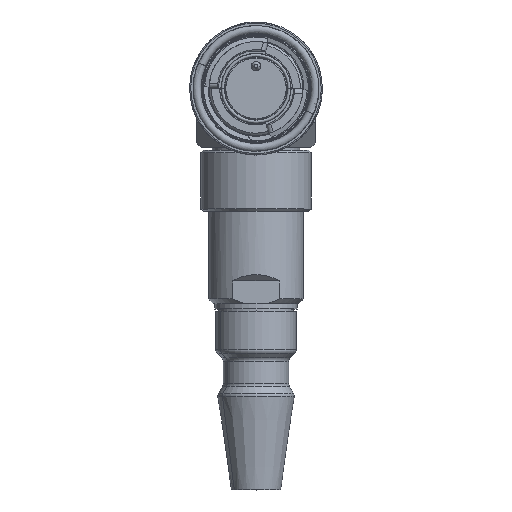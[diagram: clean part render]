
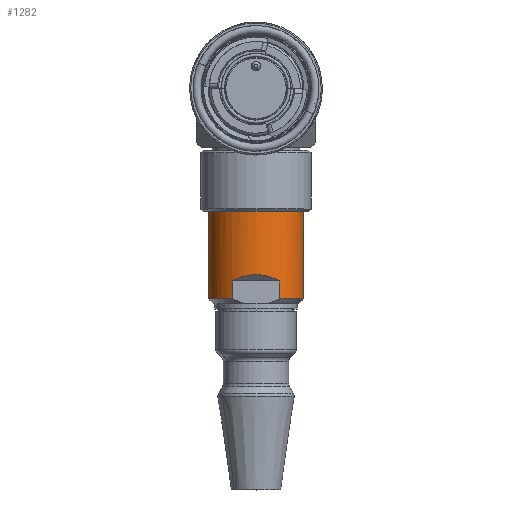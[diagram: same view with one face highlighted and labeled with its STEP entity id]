
A CAD part, top view. The second image highlights one B-rep face of the part: STEP entity #1282.
In plain terms, the highlighted cylindrical face has radius 10.095 mm (diameter 20.19 mm), a partial arc.
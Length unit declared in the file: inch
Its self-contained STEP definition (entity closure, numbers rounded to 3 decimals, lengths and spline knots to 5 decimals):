
#95 = AXIS2_PLACEMENT_3D ( 'NONE', #1006, #3906, #11393 ) ;
#359 = DIRECTION ( 'NONE',  ( 0., 1., 0. ) ) ;
#823 = CARTESIAN_POINT ( 'NONE',  ( -0.19734, -1.61472, -1.67957 ) ) ;
#944 = VECTOR ( 'NONE', #4124, 39.37008 ) ;
#1006 = CARTESIAN_POINT ( 'NONE',  ( 0., -1.7649, -2.02457 ) ) ;
#1150 = CARTESIAN_POINT ( 'NONE',  ( -0.19734, -0.51827, -1.67957 ) ) ;
#1282 = ADVANCED_FACE ( 'NONE', ( #5392 ), #10054, .T. ) ;
#1490 = VECTOR ( 'NONE', #6874, 39.37008 ) ;
#1764 = VERTEX_POINT ( 'NONE', #7502 ) ;
#2299 = EDGE_CURVE ( 'NONE', #12282, #11065, #11434, .T. ) ;
#2304 = CARTESIAN_POINT ( 'NONE',  ( 0.39745, -1.7649, -2.02457 ) ) ;
#2459 = CARTESIAN_POINT ( 'NONE',  ( 0.39745, -1.03008, -2.02457 ) ) ;
#2644 = DIRECTION ( 'NONE',  ( 0., 1., 0. ) ) ;
#2739 = EDGE_CURVE ( 'NONE', #5856, #12282, #4627, .T. ) ;
#3116 = LINE ( 'NONE', #6804, #1490 ) ;
#3329 = CARTESIAN_POINT ( 'NONE',  ( 0.19734, -1.61472, -1.67957 ) ) ;
#3703 = CARTESIAN_POINT ( 'NONE',  ( 0.07212, -1.5431, -1.60795 ) ) ;
#3906 = DIRECTION ( 'NONE',  ( 0., 1., 0. ) ) ;
#3938 = CARTESIAN_POINT ( 'NONE',  ( -0.19734, -1.61472, -1.67957 ) ) ;
#4124 = DIRECTION ( 'NONE',  ( 0., 1., 0. ) ) ;
#4263 = CARTESIAN_POINT ( 'NONE',  ( -0.39745, -1.03008, -2.02457 ) ) ;
#4376 = ORIENTED_EDGE ( 'NONE', *, *, #5548, .F. ) ;
#4404 = ORIENTED_EDGE ( 'NONE', *, *, #7887, .T. ) ;
#4627 = LINE ( 'NONE', #1150, #944 ) ;
#4661 = CARTESIAN_POINT ( 'NONE',  ( -0.07212, -1.5431, -1.60795 ) ) ;
#4788 = CARTESIAN_POINT ( 'NONE',  ( 0.19734, -1.61472, -1.67957 ) ) ;
#4807 = EDGE_LOOP ( 'NONE', ( #4376, #4404, #10731, #7877, #9838, #10157, #7654, #5881 ) ) ;
#5218 = CARTESIAN_POINT ( 'NONE',  ( 0., -0.51827, -2.02457 ) ) ;
#5390 = VERTEX_POINT ( 'NONE', #4263 ) ;
#5392 = FACE_OUTER_BOUND ( 'NONE', #4807, .T. ) ;
#5548 = EDGE_CURVE ( 'NONE', #9274, #5390, #3116, .T. ) ;
#5744 = CIRCLE ( 'NONE', #11029, 0.39745 ) ;
#5812 = EDGE_CURVE ( 'NONE', #1764, #9169, #5744, .T. ) ;
#5856 = VERTEX_POINT ( 'NONE', #6786 ) ;
#5881 = ORIENTED_EDGE ( 'NONE', *, *, #8255, .F. ) ;
#6047 = CARTESIAN_POINT ( 'NONE',  ( 0.19734, -0.51827, -1.67957 ) ) ;
#6176 = DIRECTION ( 'NONE',  ( 0., -1., 0. ) ) ;
#6521 = DIRECTION ( 'NONE',  ( 1., 0., 0. ) ) ;
#6786 = CARTESIAN_POINT ( 'NONE',  ( -0.19734, -1.7649, -1.67957 ) ) ;
#6804 = CARTESIAN_POINT ( 'NONE',  ( -0.39745, -0.51827, -2.02457 ) ) ;
#6874 = DIRECTION ( 'NONE',  ( 0., 1., 0. ) ) ;
#7502 = CARTESIAN_POINT ( 'NONE',  ( 0.19734, -1.7649, -1.67957 ) ) ;
#7654 = ORIENTED_EDGE ( 'NONE', *, *, #7971, .T. ) ;
#7877 = ORIENTED_EDGE ( 'NONE', *, *, #2299, .T. ) ;
#7887 = EDGE_CURVE ( 'NONE', #9274, #5856, #10628, .T. ) ;
#7971 = EDGE_CURVE ( 'NONE', #9169, #12475, #8993, .T. ) ;
#8013 = VECTOR ( 'NONE', #359, 39.37008 ) ;
#8081 = DIRECTION ( 'NONE',  ( 0., 1., 0. ) ) ;
#8194 = AXIS2_PLACEMENT_3D ( 'NONE', #5218, #9117, #9295 ) ;
#8255 = EDGE_CURVE ( 'NONE', #5390, #12475, #9428, .T. ) ;
#8993 = LINE ( 'NONE', #10928, #8013 ) ;
#9117 = DIRECTION ( 'NONE',  ( 0., 1., 0. ) ) ;
#9169 = VERTEX_POINT ( 'NONE', #2304 ) ;
#9238 = CARTESIAN_POINT ( 'NONE',  ( -0.39745, -1.7649, -2.02457 ) ) ;
#9274 = VERTEX_POINT ( 'NONE', #9238 ) ;
#9295 = DIRECTION ( 'NONE',  ( 1., 0., 0. ) ) ;
#9428 = CIRCLE ( 'NONE', #11640, 0.39745 ) ;
#9838 = ORIENTED_EDGE ( 'NONE', *, *, #11457, .T. ) ;
#10054 = CYLINDRICAL_SURFACE ( 'NONE', #8194, 0.39745 ) ;
#10059 = LINE ( 'NONE', #6047, #12295 ) ;
#10157 = ORIENTED_EDGE ( 'NONE', *, *, #5812, .T. ) ;
#10628 = CIRCLE ( 'NONE', #95, 0.39745 ) ;
#10731 = ORIENTED_EDGE ( 'NONE', *, *, #2739, .T. ) ;
#10908 = CARTESIAN_POINT ( 'NONE',  ( 0., -1.03008, -2.02457 ) ) ;
#10928 = CARTESIAN_POINT ( 'NONE',  ( 0.39745, -0.51827, -2.02457 ) ) ;
#11029 = AXIS2_PLACEMENT_3D ( 'NONE', #11340, #2644, #6521 ) ;
#11065 = VERTEX_POINT ( 'NONE', #4788 ) ;
#11340 = CARTESIAN_POINT ( 'NONE',  ( 0., -1.7649, -2.02457 ) ) ;
#11393 = DIRECTION ( 'NONE',  ( 1., 0., 0. ) ) ;
#11434 =( BOUNDED_CURVE ( )  B_SPLINE_CURVE ( 3, ( #823, #4661, #3703, #3329 ),
 .UNSPECIFIED., .F., .T. ) 
 B_SPLINE_CURVE_WITH_KNOTS ( ( 4, 4 ),
 ( 5.76362, 6.80275 ),
 .UNSPECIFIED. ) 
 CURVE ( )  GEOMETRIC_REPRESENTATION_ITEM ( )  RATIONAL_B_SPLINE_CURVE ( ( 1., 0.912, 0.912, 1. ) ) 
 REPRESENTATION_ITEM ( '' )  );
#11457 = EDGE_CURVE ( 'NONE', #11065, #1764, #10059, .T. ) ;
#11640 = AXIS2_PLACEMENT_3D ( 'NONE', #10908, #8081, #11984 ) ;
#11984 = DIRECTION ( 'NONE',  ( 1., 0., 0. ) ) ;
#12282 = VERTEX_POINT ( 'NONE', #3938 ) ;
#12295 = VECTOR ( 'NONE', #6176, 39.37008 ) ;
#12475 = VERTEX_POINT ( 'NONE', #2459 ) ;
